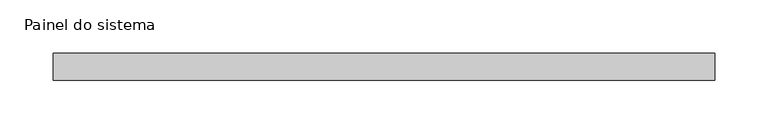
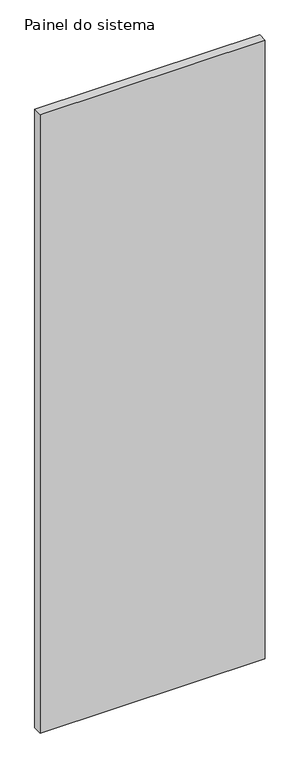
"""IFC4 building model written with IfcOpenShell, lengths in millimetres: plate geometry, Painel do sistema : ALAMBRADO."""

import ifcopenshell
import ifcopenshell.guid

model = None  # the IFC model being written
_history = None  # IfcOwnerHistory: only IFC2X3 demands one
_inside = {}  # id of a spatial element -> (the spatial element, [elements in it])
_under = {}  # id of a project, library or spatial element -> (it, [spatial elements below it])
_declared = {}  # id of a project -> (the project, [libraries it declares])
_typed = {}  # id of a type object -> (the type object, [elements of that type])
_made_of = {}  # id of a material, layer set ... -> (it, [elements and type objects made of it])


def new_model(schema):
    """Start an empty IFC model of exactly this schema.

    Asked for "IFC4X3", IfcOpenShell would pick the latest addendum, in which some entities
    have other attributes; the version numbers below select the first issue.
    IFC2X3 requires an IfcOwnerHistory on every rooted entity: one is made here for all.
    """
    global model, _history
    if schema == "IFC4X3":
        model = ifcopenshell.file(schema_version=(4, 3, 0, 0))
    else:
        model = ifcopenshell.file(schema=schema)
    _inside.clear()
    _under.clear()
    _declared.clear()
    _typed.clear()
    _made_of.clear()
    _history = None
    if model.schema == "IFC2X3":
        org = make("IfcOrganization", Name="unknown")
        user = make(
            "IfcPersonAndOrganization",
            ThePerson=make("IfcPerson", FamilyName="unknown"),
            TheOrganization=org,
        )
        app = make(
            "IfcApplication",
            ApplicationDeveloper=org,
            Version="unknown",
            ApplicationFullName="unknown",
            ApplicationIdentifier="unknown",
        )
        _history = make(
            "IfcOwnerHistory",
            OwningUser=user,
            OwningApplication=app,
            ChangeAction="ADDED",
            CreationDate=0,
        )
    return model


def make(cls, **values):
    """One entity of the class cls with the attributes given. An attribute that is None is left unset."""
    return model.create_entity(
        cls, **{name: value for name, value in values.items() if value is not None}
    )


def rooted(cls, **values):
    """An entity with a GlobalId (a new one), such as an element, a storey or a relation."""
    return make(cls, GlobalId=ifcopenshell.guid.new(), OwnerHistory=_history, **values)


def si_unit(unit_type, name, prefix=None):
    """IfcSIUnit, for example si_unit("LENGTHUNIT", "METRE", prefix="MILLI")."""
    return make("IfcSIUnit", UnitType=unit_type, Prefix=prefix, Name=name)


def assignment(units):
    """IfcUnitAssignment: the units of a project."""
    return None if units is None else make("IfcUnitAssignment", Units=units)


def point(xyz):
    """IfcCartesianPoint."""
    return None if xyz is None else make("IfcCartesianPoint", Coordinates=xyz)


def direction(xyz):
    """IfcDirection."""
    return None if xyz is None else make("IfcDirection", DirectionRatios=xyz)


def frame(location, z_axis=None, x_axis=None):
    """IfcAxis2Placement3D, a coordinate frame: its origin and axes. An axis left out is left unset."""
    return make(
        "IfcAxis2Placement3D",
        Location=point(location),
        Axis=direction(z_axis),
        RefDirection=direction(x_axis),
    )


def origin():
    """The frame at (0, 0, 0) with its axes left unset."""
    return frame((0.0, 0.0, 0.0))


def origin_with_axes():
    """The frame at (0, 0, 0) with the z axis (0, 0, 1) and the x axis (1, 0, 0) written out."""
    return frame((0.0, 0.0, 0.0), z_axis=(0.0, 0.0, 1.0), x_axis=(1.0, 0.0, 0.0))


def place(relative_to, where):
    """IfcLocalPlacement: puts the frame where relative to a parent placement (None: the world)."""
    return make(
        "IfcLocalPlacement", PlacementRelTo=relative_to, RelativePlacement=where
    )


def context(
    kind, dimensions, precision=None, world=None, true_north=None, identifier=None
):
    """IfcGeometricRepresentationContext, for example the 3D "Model" context."""
    return make(
        "IfcGeometricRepresentationContext",
        ContextIdentifier=identifier,
        ContextType=kind,
        CoordinateSpaceDimension=dimensions,
        Precision=precision,
        WorldCoordinateSystem=world,
        TrueNorth=true_north,
    )


def project(units=None, contexts=None):
    """IfcProject with its units and contexts."""
    return rooted(
        "IfcProject",
        Name="project",
        RepresentationContexts=contexts,
        UnitsInContext=assignment(units),
    )


def spatial(cls, under=None, at=None, **own):
    """A site, building, storey or space (cls), placed at a placement, below another one or the project."""
    s = rooted(cls, ObjectPlacement=at, **own)
    if under is not None:
        _under.setdefault(under.id(), (under, []))[1].append(s)
    return s


def polyline(points):
    """IfcPolyline through the points."""
    return make("IfcPolyline", Points=[point(p) for p in points])


def outline(outer, holes=None, kind="AREA"):
    """IfcArbitraryClosedProfileDef: a profile drawn as a closed curve; with holes, ...WithVoids."""
    if holes is None:
        return make("IfcArbitraryClosedProfileDef", ProfileType=kind, OuterCurve=outer)
    return make(
        "IfcArbitraryProfileDefWithVoids",
        ProfileType=kind,
        OuterCurve=outer,
        InnerCurves=holes,
    )


def extrude(swept, where, along, depth):
    """IfcExtrudedAreaSolid: the profile swept, set in the frame where, extruded along a direction by depth."""
    return make(
        "IfcExtrudedAreaSolid",
        SweptArea=swept,
        Position=where,
        ExtrudedDirection=direction(along),
        Depth=depth,
    )


def shape(context_of_items, identifier, shape_type, items):
    """IfcShapeRepresentation: the items that make up one representation, for example the "Body"."""
    return make(
        "IfcShapeRepresentation",
        ContextOfItems=context_of_items,
        RepresentationIdentifier=identifier,
        RepresentationType=shape_type,
        Items=items,
    )


def source(mapping_origin, context_of_items, identifier, shape_type, items):
    """IfcRepresentationMap: a shape defined once, which mapped items show again and again."""
    return make(
        "IfcRepresentationMap",
        MappingOrigin=mapping_origin,
        MappedRepresentation=shape(context_of_items, identifier, shape_type, items),
    )


def transform(
    local_origin,
    x_axis=None,
    y_axis=None,
    z_axis=None,
    scale=None,
    scale2=None,
    scale3=None,
    uniform=True,
):
    """IfcCartesianTransformationOperator3D, or its non-uniform kind. x_axis, y_axis, z_axis: its Axis1, 2, 3."""
    if uniform:
        return make(
            "IfcCartesianTransformationOperator3D",
            Axis1=direction(x_axis),
            Axis2=direction(y_axis),
            LocalOrigin=point(local_origin),
            Scale=scale,
            Axis3=direction(z_axis),
        )
    return make(
        "IfcCartesianTransformationOperator3DnonUniform",
        Axis1=direction(x_axis),
        Axis2=direction(y_axis),
        LocalOrigin=point(local_origin),
        Scale=scale,
        Axis3=direction(z_axis),
        Scale2=scale2,
        Scale3=scale3,
    )


def mapped(mapping_source, mapping_target):
    """IfcMappedItem: shows the shape of a source again, moved by a transform."""
    return make(
        "IfcMappedItem", MappingSource=mapping_source, MappingTarget=mapping_target
    )


def made_of(thing, what):
    """Note that an element or type object is made of a material, layer set ...; save() writes the relation."""
    if what is not None:
        _made_of.setdefault(what.id(), (what, []))[1].append(thing)
    return thing


def element(
    cls,
    number,
    at=None,
    inside=None,
    cuts=None,
    type_object=None,
    material=None,
    context=None,
    identifier="Body",
    shape_type=None,
    held_by="IfcProductDefinitionShape",
    body=None,
    shapes=None,
    **own,
):
    """One element of the class cls, such as IfcWall. Its Tag is "e" and its number.

    at: its placement. inside: the storey or other place that contains it. cuts: it is an
    opening in that element (IfcRelVoidsElement). A single representation is given by context,
    identifier, shape_type and body (its items); several are given by shapes. held_by: the class
    of the entity that holds the representations. save() writes the other relations.
    """
    e = rooted(cls, Tag="e%d" % number, ObjectPlacement=at, **own)
    if body is not None:
        shapes = [shape(context, identifier, shape_type, body)]
    if shapes is not None:
        e.Representation = make(held_by, Representations=shapes)
    if inside is not None:
        _inside.setdefault(inside.id(), (inside, []))[1].append(e)
    if cuts is not None:
        rooted(
            "IfcRelVoidsElement", RelatingBuildingElement=cuts, RelatedOpeningElement=e
        )
    if type_object is not None:
        _typed.setdefault(type_object.id(), (type_object, []))[1].append(e)
    return made_of(e, material)


def aggregate(whole, parts):
    """IfcRelAggregates: a whole, such as a stair, and the parts it consists of."""
    return rooted("IfcRelAggregates", RelatingObject=whole, RelatedObjects=parts)


def save(model, path):
    """Write the relations noted so far, then the file.

    IfcRelAggregates (storeys below a building ...), IfcRelContainedInSpatialStructure (elements
    in a storey), IfcRelDefinesByType, IfcRelAssociatesMaterial and IfcRelDeclares: one each for
    every whole, place, type object, material and project.
    """
    for whole, parts in _under.values():
        aggregate(whole, parts)
    for where, things in _inside.values():
        rooted(
            "IfcRelContainedInSpatialStructure",
            RelatedElements=things,
            RelatingStructure=where,
        )
    for kind, things in _typed.values():
        rooted("IfcRelDefinesByType", RelatedObjects=things, RelatingType=kind)
    for what, things in _made_of.values():
        rooted("IfcRelAssociatesMaterial", RelatedObjects=things, RelatingMaterial=what)
    for by, libraries in _declared.values():
        rooted("IfcRelDeclares", RelatingContext=by, RelatedDefinitions=libraries)
    model.write(path)


def painel_do_sistema_57f9a749(model_context):
    return source(origin(), model_context, "Body", "SweptSolid", [
        extrude(outline(polyline([(309.9437835, 24.5), (-309.9437835, 24.5), (-309.9437835, 49.5), (309.9437835, 49.5), (309.9437835, 24.5)])), origin_with_axes(), (0.0, 0.0, 1.0), 1800.0),
    ])


if __name__ == "__main__":
    model = new_model("IFC4")
    model_context = context("Model", 3, world=origin())
    ifc_project = project(units=[si_unit("LENGTHUNIT", "METRE", prefix="MILLI")], contexts=[model_context])
    site = spatial("IfcSite", under=ifc_project)
    building = spatial("IfcBuilding", under=site)
    placement = place(None, origin())
    painel_do_sistema_shape = painel_do_sistema_57f9a749(model_context)
    element("IfcPlate", 1, ObjectType="Painel do sistema : ALAMBRADO", at=placement, inside=building, context=model_context, shape_type="MappedRepresentation", body=[
        mapped(painel_do_sistema_shape, transform((0.0, 0.0, 0.0), x_axis=(1.0, 0.0, 0.0), y_axis=(0.0, 1.0, 0.0), z_axis=(0.0, 0.0, 1.0))),
    ])
    save(model, "model.ifc")
